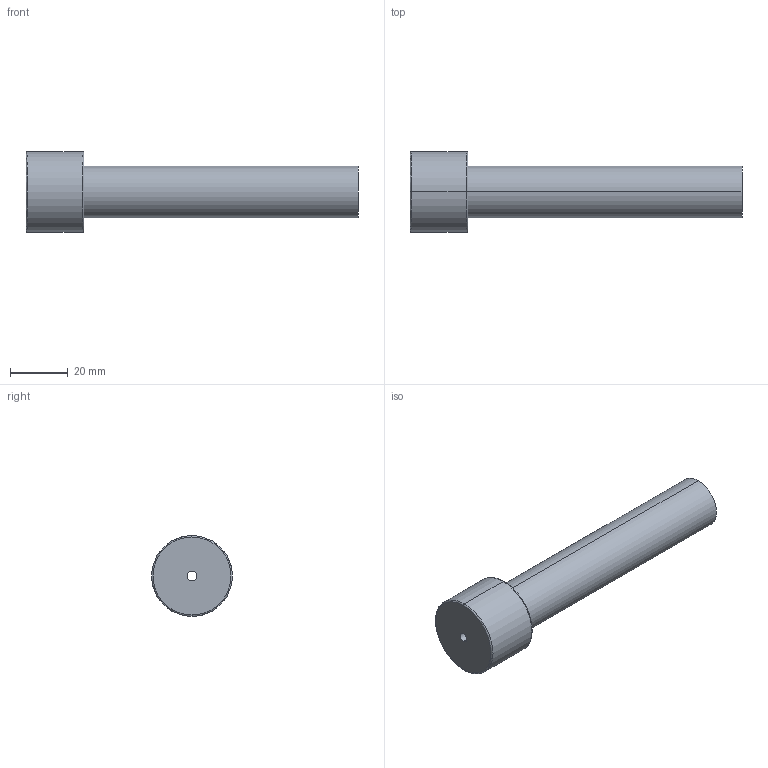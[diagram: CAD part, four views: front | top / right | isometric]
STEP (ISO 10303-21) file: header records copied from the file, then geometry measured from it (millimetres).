
FILE_DESCRIPTION(('CATIA V5 STEP Exchange'),'2;1');
FILE_NAME('C:\Users\Utente\Desktop\IO LAVORO\3D X SITO CF\X SITO\PLASTICA\3D files 367\367-18X115.stp','2021-03-24T15:43:15+00:00',('none'),('none'),'CATIA Version 5 Release 20 GA (IN-10)','CATIA V5 STEP AP203','none');
FILE_SCHEMA(('CONFIG_CONTROL_DESIGN'));
Length unit declared in the file: millimetre
Products named in the file (1): 367-18X115
Bounding box: 115 x 28 x 28 mm (x, y, z)
Volume: 32609.4 mm3; surface area: 10529.1 mm2
Topology: 1 solids, 1 shells, 13 faces, 42 edges, 32 vertices
Faces by surface type: torus 4, cylinder 4, plane 3, cone 2
Entity records: 608 total; most frequent: CARTESIAN_POINT 194, ORIENTED_EDGE 84, DIRECTION 60, AXIS2_PLACEMENT_3D 42, EDGE_CURVE 42, VERTEX_POINT 32, CIRCLE 28, EDGE_LOOP 16
